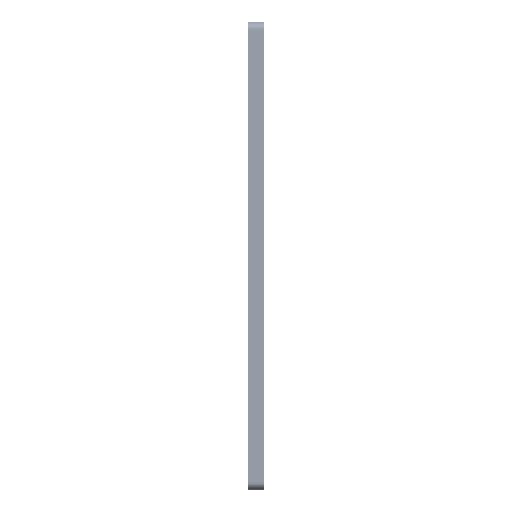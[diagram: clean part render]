
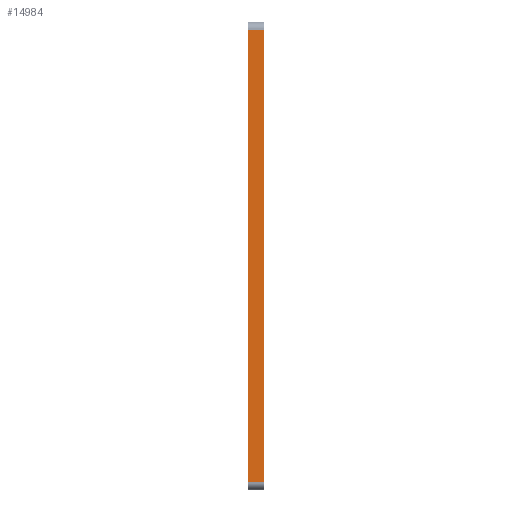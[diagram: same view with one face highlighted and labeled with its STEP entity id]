
A CAD part, left-side view. The second image highlights one B-rep face of the part: STEP entity #14984.
In plain terms, the highlighted planar face has unit normal (-1, 0, 0).
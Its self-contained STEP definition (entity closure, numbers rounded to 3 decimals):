
#1193 = CARTESIAN_POINT ( 'NONE',  ( -400., 0., -300. ) ) ;
#3488 = LINE ( 'NONE', #4191, #23891 ) ;
#4191 = CARTESIAN_POINT ( 'NONE',  ( -400., 20., 290. ) ) ;
#4323 = CARTESIAN_POINT ( 'NONE',  ( -400., 0., -290. ) ) ;
#4442 = VECTOR ( 'NONE', #23344, 1000. ) ;
#6534 = CARTESIAN_POINT ( 'NONE',  ( -400., 20., 290. ) ) ;
#8931 = LINE ( 'NONE', #24049, #4442 ) ;
#10788 = VERTEX_POINT ( 'NONE', #4323 ) ;
#12414 = VECTOR ( 'NONE', #22014, 1000. ) ;
#14984 = ADVANCED_FACE ( 'NONE', ( #29334 ), #22270, .F. ) ;
#15626 = DIRECTION ( 'NONE',  ( 0., 0., 1. ) ) ;
#16643 = ORIENTED_EDGE ( 'NONE', *, *, #28574, .T. ) ;
#17022 = CARTESIAN_POINT ( 'NONE',  ( -400., 0., 290. ) ) ;
#18545 = EDGE_LOOP ( 'NONE', ( #16643, #24079, #43160, #42252 ) ) ;
#18693 = CARTESIAN_POINT ( 'NONE',  ( -400., 20., -300. ) ) ;
#19360 = CARTESIAN_POINT ( 'NONE',  ( -400., 20., -290. ) ) ;
#22014 = DIRECTION ( 'NONE',  ( 0., -1., 0. ) ) ;
#22053 = DIRECTION ( 'NONE',  ( 1., 0., 0. ) ) ;
#22270 = PLANE ( 'NONE',  #32925 ) ;
#23344 = DIRECTION ( 'NONE',  ( 0., 0., 1. ) ) ;
#23891 = VECTOR ( 'NONE', #43710, 1000. ) ;
#24049 = CARTESIAN_POINT ( 'NONE',  ( -400., 20., -300. ) ) ;
#24079 = ORIENTED_EDGE ( 'NONE', *, *, #33456, .T. ) ;
#24500 = VERTEX_POINT ( 'NONE', #28534 ) ;
#28534 = CARTESIAN_POINT ( 'NONE',  ( -400., 20., -290. ) ) ;
#28574 = EDGE_CURVE ( 'NONE', #10788, #28731, #33606, .T. ) ;
#28731 = VERTEX_POINT ( 'NONE', #17022 ) ;
#29334 = FACE_OUTER_BOUND ( 'NONE', #18545, .T. ) ;
#29762 = LINE ( 'NONE', #19360, #12414 ) ;
#31083 = EDGE_CURVE ( 'NONE', #24500, #10788, #29762, .T. ) ;
#32925 = AXIS2_PLACEMENT_3D ( 'NONE', #18693, #22053, #36921 ) ;
#33456 = EDGE_CURVE ( 'NONE', #28731, #39149, #3488, .T. ) ;
#33606 = LINE ( 'NONE', #1193, #43150 ) ;
#35947 = EDGE_CURVE ( 'NONE', #24500, #39149, #8931, .T. ) ;
#36921 = DIRECTION ( 'NONE',  ( 0., 0., -1. ) ) ;
#39149 = VERTEX_POINT ( 'NONE', #6534 ) ;
#42252 = ORIENTED_EDGE ( 'NONE', *, *, #31083, .T. ) ;
#43150 = VECTOR ( 'NONE', #15626, 1000. ) ;
#43160 = ORIENTED_EDGE ( 'NONE', *, *, #35947, .F. ) ;
#43710 = DIRECTION ( 'NONE',  ( 0., 1., 0. ) ) ;
